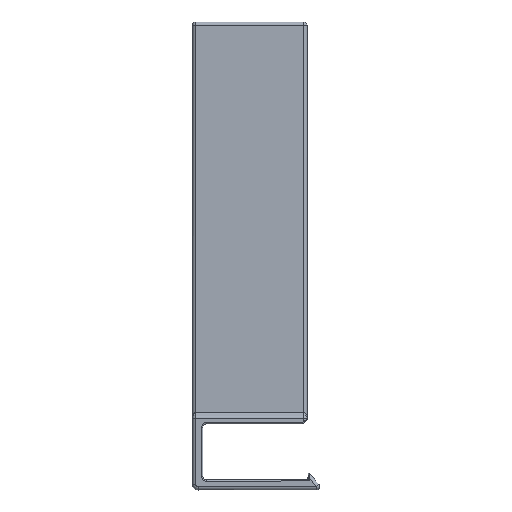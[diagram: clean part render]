
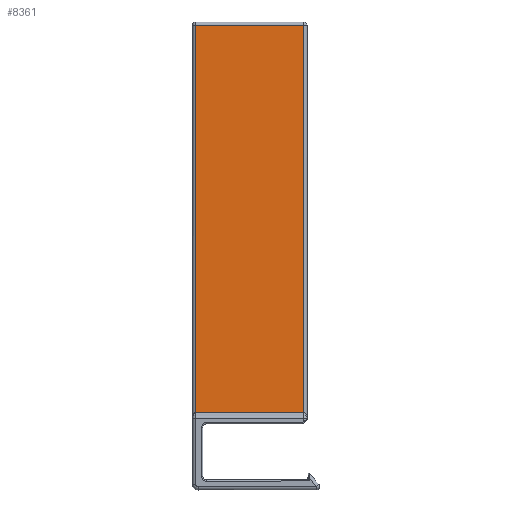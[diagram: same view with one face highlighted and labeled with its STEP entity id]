
A CAD part, left-side view. The second image highlights one B-rep face of the part: STEP entity #8361.
In plain terms, the highlighted planar face has unit normal (-1, 0, 0).
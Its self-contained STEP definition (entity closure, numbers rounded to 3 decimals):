
#317 = DIRECTION ( 'NONE',  ( 0., 1., 0. ) ) ;
#409 = CARTESIAN_POINT ( 'NONE',  ( -3., -0.8, 100. ) ) ;
#479 = DIRECTION ( 'NONE',  ( 0., 0., 1. ) ) ;
#511 = VERTEX_POINT ( 'NONE', #2008 ) ;
#1089 = ORIENTED_EDGE ( 'NONE', *, *, #5412, .T. ) ;
#1972 = ORIENTED_EDGE ( 'NONE', *, *, #6585, .T. ) ;
#2008 = CARTESIAN_POINT ( 'NONE',  ( -3., -0.8, 2.8 ) ) ;
#2818 = VECTOR ( 'NONE', #3574, 1000. ) ;
#2899 = VECTOR ( 'NONE', #479, 1000. ) ;
#3069 = LINE ( 'NONE', #409, #9215 ) ;
#3276 = CARTESIAN_POINT ( 'NONE',  ( -3., -27.7, 100. ) ) ;
#3574 = DIRECTION ( 'NONE',  ( 0., 1., 0. ) ) ;
#4019 = DIRECTION ( 'NONE',  ( 0., -1., 0. ) ) ;
#4112 = CARTESIAN_POINT ( 'NONE',  ( -3., -28.5, 2.8 ) ) ;
#4200 = LINE ( 'NONE', #7148, #2818 ) ;
#4908 = ORIENTED_EDGE ( 'NONE', *, *, #6991, .T. ) ;
#4910 = DIRECTION ( 'NONE',  ( 1., 0., 0. ) ) ;
#5379 = EDGE_LOOP ( 'NONE', ( #4908, #1089, #1972, #9229 ) ) ;
#5412 = EDGE_CURVE ( 'NONE', #511, #8784, #9061, .T. ) ;
#5511 = EDGE_CURVE ( 'NONE', #5528, #9514, #4200, .T. ) ;
#5528 = VERTEX_POINT ( 'NONE', #5791 ) ;
#5791 = CARTESIAN_POINT ( 'NONE',  ( -3., -27.7, 99.2 ) ) ;
#6342 = PLANE ( 'NONE',  #7315 ) ;
#6585 = EDGE_CURVE ( 'NONE', #8784, #5528, #9096, .T. ) ;
#6925 = FACE_OUTER_BOUND ( 'NONE', #5379, .T. ) ;
#6991 = EDGE_CURVE ( 'NONE', #9514, #511, #3069, .T. ) ;
#7112 = CARTESIAN_POINT ( 'NONE',  ( -3., -27.7, 2.8 ) ) ;
#7148 = CARTESIAN_POINT ( 'NONE',  ( -3., -28.5, 99.2 ) ) ;
#7315 = AXIS2_PLACEMENT_3D ( 'NONE', #8367, #4910, #317 ) ;
#7742 = VECTOR ( 'NONE', #4019, 1000. ) ;
#8361 = ADVANCED_FACE ( 'NONE', ( #6925 ), #6342, .F. ) ;
#8367 = CARTESIAN_POINT ( 'NONE',  ( -3., -28.5, 100. ) ) ;
#8559 = CARTESIAN_POINT ( 'NONE',  ( -3., -0.8, 99.2 ) ) ;
#8784 = VERTEX_POINT ( 'NONE', #7112 ) ;
#9061 = LINE ( 'NONE', #4112, #7742 ) ;
#9096 = LINE ( 'NONE', #3276, #2899 ) ;
#9215 = VECTOR ( 'NONE', #9318, 1000. ) ;
#9229 = ORIENTED_EDGE ( 'NONE', *, *, #5511, .T. ) ;
#9318 = DIRECTION ( 'NONE',  ( 0., 0., -1. ) ) ;
#9514 = VERTEX_POINT ( 'NONE', #8559 ) ;
